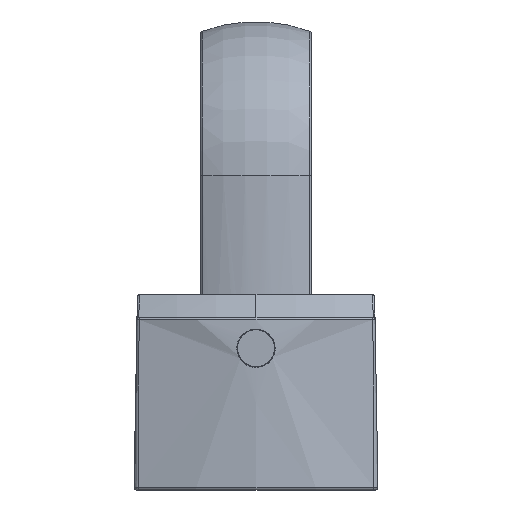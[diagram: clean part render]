
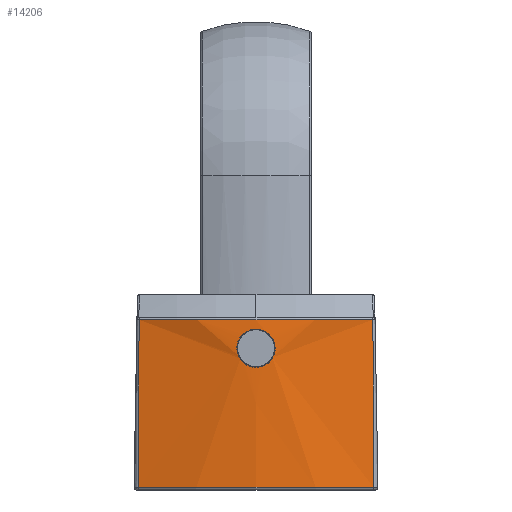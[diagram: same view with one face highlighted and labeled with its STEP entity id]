
A CAD part, left-side view. The second image highlights one B-rep face of the part: STEP entity #14206.
In plain terms, the highlighted conical face has half-angle 1 degrees and reference radius 30.094 mm.
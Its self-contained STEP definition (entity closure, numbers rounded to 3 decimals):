
#199 = VECTOR ( 'NONE', #26511, 1000. ) ;
#213 = CARTESIAN_POINT ( 'NONE',  ( -88.698, 10.099, 13.025 ) ) ;
#361 = DIRECTION ( 'NONE',  ( 1., 0., 0. ) ) ;
#632 = ORIENTED_EDGE ( 'NONE', *, *, #20844, .T. ) ;
#972 = CARTESIAN_POINT ( 'NONE',  ( -88.696, 10.3, 12.985 ) ) ;
#1066 = VERTEX_POINT ( 'NONE', #8537 ) ;
#1419 = CARTESIAN_POINT ( 'NONE',  ( -88.731, 10.83, 10.288 ) ) ;
#1715 = CARTESIAN_POINT ( 'NONE',  ( -87.367, 19.459, 0. ) ) ;
#2316 = CARTESIAN_POINT ( 'NONE',  ( -88.748, 9.503, 10.014 ) ) ;
#2464 = CARTESIAN_POINT ( 'NONE',  ( -88.681, 8.452, 11.99 ) ) ;
#3191 = AXIS2_PLACEMENT_3D ( 'NONE', #5077, #23550, #361 ) ;
#3557 = CARTESIAN_POINT ( 'NONE',  ( -88.751, 9.9, 9.975 ) ) ;
#3615 = CARTESIAN_POINT ( 'NONE',  ( -87.367, 0.341, 0. ) ) ;
#3704 = DIRECTION ( 'NONE',  ( -0.017, 0.006, -1. ) ) ;
#3966 = ORIENTED_EDGE ( 'NONE', *, *, #29928, .T. ) ;
#4405 = CARTESIAN_POINT ( 'NONE',  ( -88.689, 10.837, 12.719 ) ) ;
#4421 = FACE_BOUND ( 'NONE', #6206, .T. ) ;
#4459 = CARTESIAN_POINT ( 'NONE',  ( -88.695, 8.424, 11.104 ) ) ;
#4748 = CARTESIAN_POINT ( 'NONE',  ( -88.689, 8.965, 12.721 ) ) ;
#5077 = CARTESIAN_POINT ( 'NONE',  ( -58.831, 9.9, 0.203 ) ) ;
#6145 = AXIS2_PLACEMENT_3D ( 'NONE', #24896, #22906, #6414 ) ;
#6148 = CARTESIAN_POINT ( 'NONE',  ( -88.682, 11.223, 12.265 ) ) ;
#6206 = EDGE_LOOP ( 'NONE', ( #27835, #15709 ) ) ;
#6263 = B_SPLINE_CURVE_WITH_KNOTS ( 'NONE', 3,
 ( #9034, #16135, #25080, #20388, #4748, #13715, #14000, #2464, #13566, #18706, #15992, #11739, #23079, #4459, #11463, #18407, #20685, #27953, #29904, #2316, #11592, #28243 ),
 .UNSPECIFIED., .F., .F.,
 ( 4, 2, 2, 2, 2, 2, 2, 2, 2, 2, 4 ),
 ( 0., 0.125, 0.25, 0.375, 0.437, 0.5, 0.562, 0.625, 0.75, 0.875, 1. ),
 .UNSPECIFIED. ) ;
#6291 = CARTESIAN_POINT ( 'NONE',  ( -88.683, 11.113, 12.43 ) ) ;
#6414 = DIRECTION ( 'NONE',  ( 1., 0., 0. ) ) ;
#8023 = LINE ( 'NONE', #3615, #199 ) ;
#8268 = CARTESIAN_POINT ( 'NONE',  ( -88.68, 11.386, 11.897 ) ) ;
#8419 = CARTESIAN_POINT ( 'NONE',  ( -88.681, 11.27, 12.177 ) ) ;
#8537 = CARTESIAN_POINT ( 'NONE',  ( -88.698, 9.9, 13.025 ) ) ;
#8579 = CARTESIAN_POINT ( 'NONE',  ( -88.748, 10.3, 10.015 ) ) ;
#9034 = CARTESIAN_POINT ( 'NONE',  ( -88.698, 9.9, 13.025 ) ) ;
#10384 = EDGE_CURVE ( 'NONE', #13860, #1066, #20455, .T. ) ;
#10859 = CARTESIAN_POINT ( 'NONE',  ( -88.751, 10.099, 9.975 ) ) ;
#11463 = CARTESIAN_POINT ( 'NONE',  ( -88.698, 8.452, 11.011 ) ) ;
#11491 = CARTESIAN_POINT ( 'NONE',  ( -87.138, 0.418, 13.817 ) ) ;
#11592 = CARTESIAN_POINT ( 'NONE',  ( -88.751, 9.698, 9.975 ) ) ;
#11739 = CARTESIAN_POINT ( 'NONE',  ( -88.687, 8.375, 11.401 ) ) ;
#11968 = EDGE_CURVE ( 'NONE', #25599, #12258, #24473, .T. ) ;
#12258 = VERTEX_POINT ( 'NONE', #19944 ) ;
#13566 = CARTESIAN_POINT ( 'NONE',  ( -88.681, 8.423, 11.895 ) ) ;
#13661 = CARTESIAN_POINT ( 'NONE',  ( -88.692, 10.667, 12.833 ) ) ;
#13715 = CARTESIAN_POINT ( 'NONE',  ( -88.683, 8.679, 12.435 ) ) ;
#13816 = EDGE_CURVE ( 'NONE', #1066, #13860, #6263, .T. ) ;
#13860 = VERTEX_POINT ( 'NONE', #26279 ) ;
#14000 = CARTESIAN_POINT ( 'NONE',  ( -88.681, 8.568, 12.27 ) ) ;
#14206 = ADVANCED_FACE ( 'NONE', ( #4421, #29872 ), #17274, .T. ) ;
#14826 = EDGE_LOOP ( 'NONE', ( #3966, #632, #22436, #24262 ) ) ;
#14948 = CARTESIAN_POINT ( 'NONE',  ( -88.689, 11.425, 11.297 ) ) ;
#15552 = CARTESIAN_POINT ( 'NONE',  ( -88.716, 11.121, 10.564 ) ) ;
#15613 = VERTEX_POINT ( 'NONE', #18332 ) ;
#15709 = ORIENTED_EDGE ( 'NONE', *, *, #13816, .T. ) ;
#15992 = CARTESIAN_POINT ( 'NONE',  ( -88.684, 8.375, 11.599 ) ) ;
#16056 = CARTESIAN_POINT ( 'NONE',  ( -87.363, 0.342, 0.203 ) ) ;
#16135 = CARTESIAN_POINT ( 'NONE',  ( -88.698, 9.698, 13.025 ) ) ;
#17274 = CONICAL_SURFACE ( 'NONE', #6145, 30.094, 0.017 ) ;
#17719 = VECTOR ( 'NONE', #3704, 1000. ) ;
#18332 = CARTESIAN_POINT ( 'NONE',  ( -87.363, 19.458, 0.203 ) ) ;
#18407 = CARTESIAN_POINT ( 'NONE',  ( -88.708, 8.568, 10.73 ) ) ;
#18706 = CARTESIAN_POINT ( 'NONE',  ( -88.682, 8.385, 11.7 ) ) ;
#19154 = AXIS2_PLACEMENT_3D ( 'NONE', #26163, #28278, #24169 ) ;
#19175 = CIRCLE ( 'NONE', #3191, 30.091 ) ;
#19735 = VERTEX_POINT ( 'NONE', #16056 ) ;
#19930 = CARTESIAN_POINT ( 'NONE',  ( -88.727, 10.906, 10.35 ) ) ;
#19944 = CARTESIAN_POINT ( 'NONE',  ( -87.138, 19.382, 13.817 ) ) ;
#20372 = LINE ( 'NONE', #1715, #17719 ) ;
#20388 = CARTESIAN_POINT ( 'NONE',  ( -88.692, 9.13, 12.832 ) ) ;
#20455 = B_SPLINE_CURVE_WITH_KNOTS ( 'NONE', 3,
 ( #3557, #10859, #8579, #29017, #22187, #1419, #19930, #15552, #24612, #27062, #14948, #29169, #8268, #8419, #6148, #6291, #24770, #4405, #13661, #972, #213, #27396 ),
 .UNSPECIFIED., .F., .F.,
 ( 4, 2, 2, 2, 2, 2, 2, 2, 2, 2, 4 ),
 ( 0., 0.125, 0.188, 0.25, 0.375, 0.5, 0.625, 0.688, 0.75, 0.875, 1. ),
 .UNSPECIFIED. ) ;
#20685 = CARTESIAN_POINT ( 'NONE',  ( -88.716, 8.679, 10.564 ) ) ;
#20844 = EDGE_CURVE ( 'NONE', #15613, #19735, #19175, .T. ) ;
#22187 = CARTESIAN_POINT ( 'NONE',  ( -88.738, 10.663, 10.176 ) ) ;
#22436 = ORIENTED_EDGE ( 'NONE', *, *, #24953, .F. ) ;
#22906 = DIRECTION ( 'NONE',  ( 0., 0., -1. ) ) ;
#23079 = CARTESIAN_POINT ( 'NONE',  ( -88.689, 8.385, 11.301 ) ) ;
#23550 = DIRECTION ( 'NONE',  ( 0., 0., 1. ) ) ;
#24169 = DIRECTION ( 'NONE',  ( -1., 0., 0. ) ) ;
#24262 = ORIENTED_EDGE ( 'NONE', *, *, #11968, .T. ) ;
#24473 = CIRCLE ( 'NONE', #19154, 29.853 ) ;
#24612 = CARTESIAN_POINT ( 'NONE',  ( -88.708, 11.231, 10.729 ) ) ;
#24770 = CARTESIAN_POINT ( 'NONE',  ( -88.685, 11.048, 12.508 ) ) ;
#24896 = CARTESIAN_POINT ( 'NONE',  ( -58.831, 9.9, 0. ) ) ;
#24953 = EDGE_CURVE ( 'NONE', #25599, #19735, #8023, .T. ) ;
#25080 = CARTESIAN_POINT ( 'NONE',  ( -88.696, 9.504, 12.986 ) ) ;
#25599 = VERTEX_POINT ( 'NONE', #11491 ) ;
#26163 = CARTESIAN_POINT ( 'NONE',  ( -58.831, 9.9, 13.817 ) ) ;
#26279 = CARTESIAN_POINT ( 'NONE',  ( -88.751, 9.9, 9.975 ) ) ;
#26511 = DIRECTION ( 'NONE',  ( -0.017, -0.006, -1. ) ) ;
#27062 = CARTESIAN_POINT ( 'NONE',  ( -88.694, 11.386, 11.102 ) ) ;
#27396 = CARTESIAN_POINT ( 'NONE',  ( -88.698, 9.9, 13.025 ) ) ;
#27835 = ORIENTED_EDGE ( 'NONE', *, *, #10384, .T. ) ;
#27953 = CARTESIAN_POINT ( 'NONE',  ( -88.731, 8.965, 10.278 ) ) ;
#28243 = CARTESIAN_POINT ( 'NONE',  ( -88.751, 9.9, 9.975 ) ) ;
#28278 = DIRECTION ( 'NONE',  ( 0., 0., -1. ) ) ;
#29017 = CARTESIAN_POINT ( 'NONE',  ( -88.741, 10.575, 10.129 ) ) ;
#29169 = CARTESIAN_POINT ( 'NONE',  ( -88.682, 11.425, 11.702 ) ) ;
#29872 = FACE_OUTER_BOUND ( 'NONE', #14826, .T. ) ;
#29904 = CARTESIAN_POINT ( 'NONE',  ( -88.738, 9.13, 10.168 ) ) ;
#29928 = EDGE_CURVE ( 'NONE', #12258, #15613, #20372, .T. ) ;
